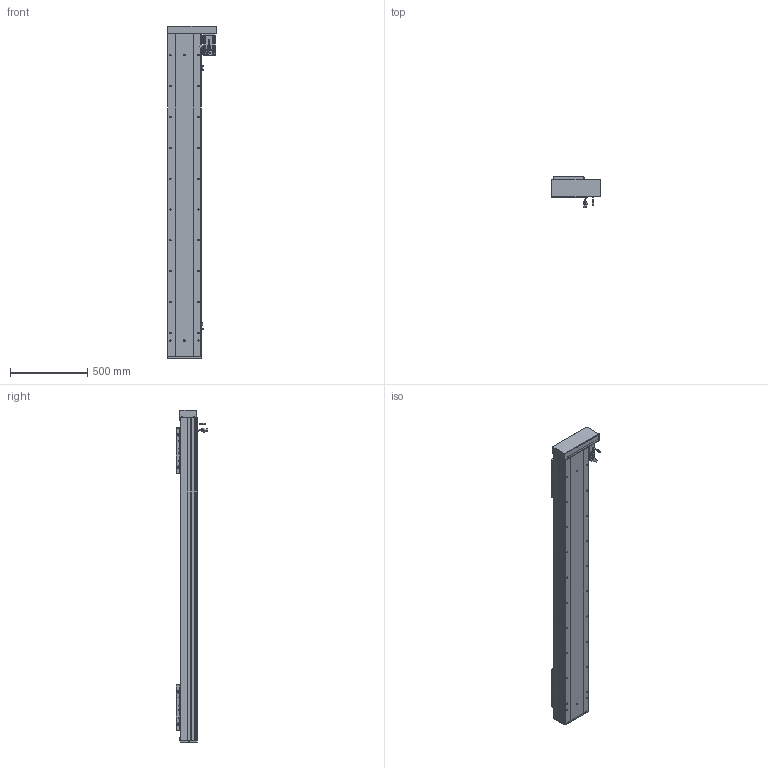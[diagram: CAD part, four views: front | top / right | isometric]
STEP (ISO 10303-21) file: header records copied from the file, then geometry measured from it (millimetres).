
FILE_DESCRIPTION (( 'STEP AP203' ), '1' );
FILE_NAME ('RY220F-L2525-800-RK-邧嶺.SLDASM_1650.step', '2022-08-06T08:19:44', ( '' ), ( '' ), 'SwSTEP 2.0', 'SolidWorks 2016', '' );
FILE_SCHEMA (( 'CONFIG_CONTROL_DESIGN' ));
Length unit declared in the file: millimetre
Products named in the file (15): RY220F-蛌殏奻裔啣-800_1650; 侐源滅袉蝶; RY220F-詩湍揤踡輸; RY220F綴裔啣; RY220F蛌殏菁釱-800-邧嶺_1650; RY220左右折电机安装板; RY220F臏賑釱25-32佪裝; 覜茼ん672; RY220F-祥凄詩湍-蛌殏-800_1650; 怢湛750W_ECMA-CX0807ES; RY220F-L2525-800-RK-邧嶺.SLDASM_1650; RY220酘衵殏萇儂欶; RY220F-滅鳥奻裔; 滅袉蝶18-24; RY220F-672覜茼んえ
Assembly tree (24 placements, depth 2):
  RY220F-L2525-800-RK-邧嶺.SLDASM_1650
    RY220F蛌殏菁釱-800-邧嶺_1650
    RY220F-蛌殏奻裔啣-800_1650  x2
    怢湛750W_ECMA-CX0807ES
    RY220F臏賑釱25-32佪裝  x2
    RY220F-滅鳥奻裔  x2
    滅袉蝶18-24  x3
    RY220F綴裔啣
    RY220F-祥凄詩湍-蛌殏-800_1650
    RY220F-詩湍揤踡輸  x2
    覜茼ん672  x3
    RY220F-672覜茼んえ  x2
    RY220左右折电机安装板
    RY220酘衵殏萇儂欶
    侐源滅袉蝶  x2
Bounding box: 317.5 x 205.27 x 2153 mm (x, y, z)
Volume: 18917946.3 mm3; surface area: 5022538.7 mm2
Topology: 25 solids, 25 shells, 2856 faces, 7756 edges, 4780 vertices
Faces by surface type: cylinder 1298, plane 1044, cone 443, bspline 45, sphere 16, torus 10
Entity records: 71108 total; most frequent: CARTESIAN_POINT 19041, ORIENTED_EDGE 10486, DIRECTION 10296, EDGE_CURVE 5243, AXIS2_PLACEMENT_3D 3686, VERTEX_POINT 3396, VECTOR 2924, LINE 2924
